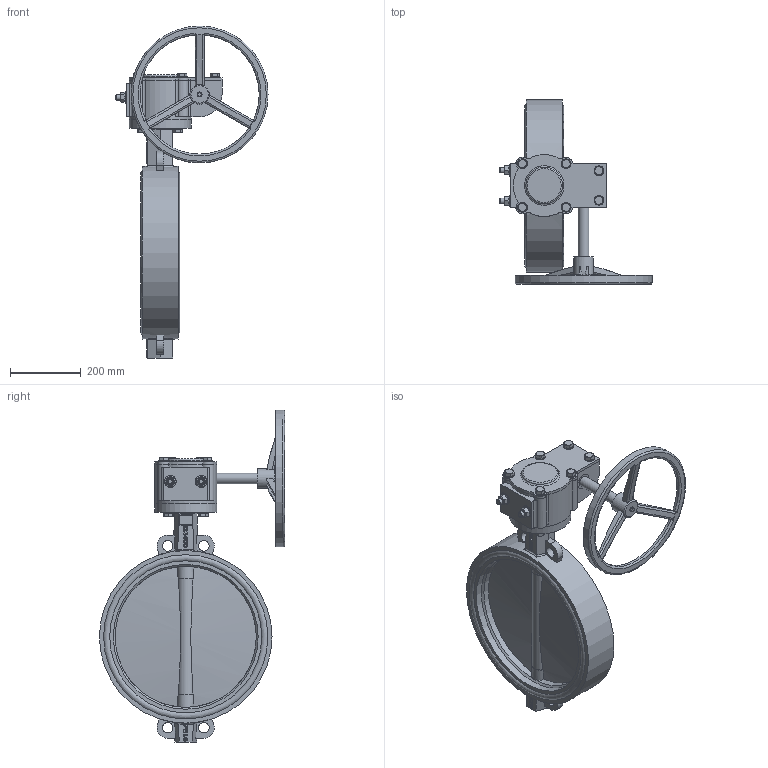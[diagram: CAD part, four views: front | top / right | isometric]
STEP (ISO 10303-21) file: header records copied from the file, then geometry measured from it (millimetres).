
FILE_DESCRIPTION(('STEP AP242'), '1');
FILE_NAME('Ïîâîðîòíûé çàòâîð ïîä ýëåêòðîïðèâîä', '', ('UNSPECIFIED'), ('UNSPECIFIED'), 'C3D Converter', 'C3D Toolkit', '');
FILE_SCHEMA(('AP242_MANAGED_MODEL_BASED_3D_ENGINEERING_MIM_LF { 1 0 10303 442 1 1 4 }'));
Length unit declared in the file: millimetre
Products named in the file (17): П
Assembly tree (36 placements, depth 3):
  (unnamed)
    (unnamed)
    П  x2
    (unnamed)
    (unnamed)
    (unnamed)
    (unnamed)
      (unnamed)
      (unnamed)
      (unnamed)
      (unnamed)
      (unnamed)  x6
      (unnamed)  x6
      (unnamed)  x2
      (unnamed)  x2
      (unnamed)
    (unnamed)  x4
    (unnamed)  x4
Bounding box: 431 x 524.5 x 940.5 mm (x, y, z)
Volume: 16101675.7 mm3; surface area: 2012342.3 mm2
Topology: 35 solids, 35 shells, 815 faces, 1937 edges, 1251 vertices
Faces by surface type: plane 395, cylinder 147, extrusion 135, bspline 61, cone 44, torus 29, sphere 4
Full cylindrical faces by diameter (mm): 6 x2, 11.421 x1, 14.376 x2, 16 x30, 17 x10, 18 x4, 28 x10, 30 x7, 36 x6, 45 x2, 48.45 x4, 50.912 x5, 55 x1, 175 x2, 338 x1, 348 x1, 378 x1, 388 x1, 400 x1, 410.2 x2, 430.6 x2, 447.9 x4, 465.2 x4, 489 x1
Entity records: 33341 total; most frequent: CARTESIAN_POINT 15844, ORIENTED_EDGE 2996, DIRECTION 2389, EDGE_CURVE 1498, VERTEX_POINT 1045, EDGE_LOOP 863, VECTOR 803, AXIS2_PLACEMENT_3D 793
